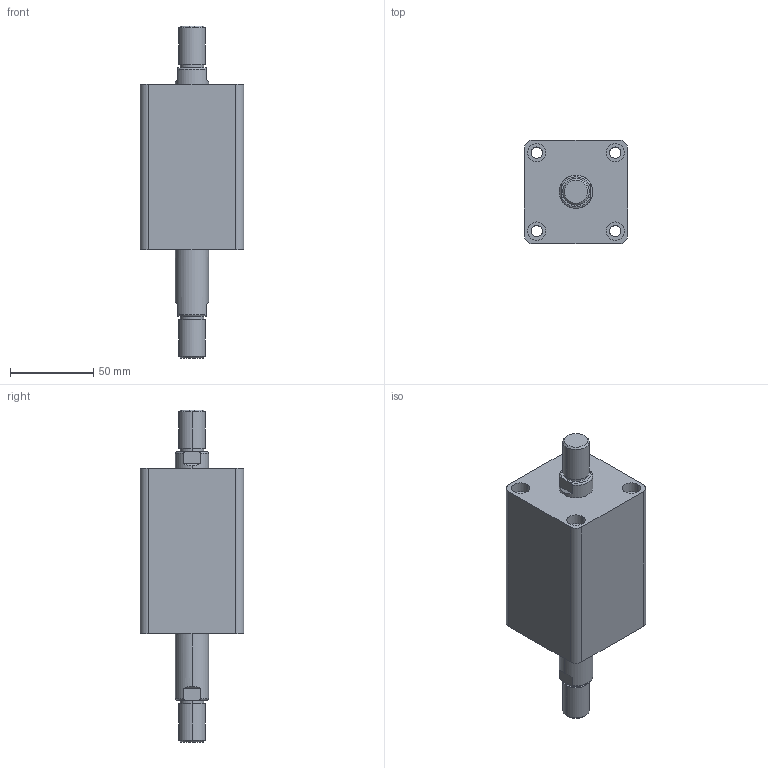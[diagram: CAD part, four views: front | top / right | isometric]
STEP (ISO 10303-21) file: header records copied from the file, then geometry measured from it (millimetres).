
FILE_DESCRIPTION (( 'STEP AP203' ), '1' );
FILE_NAME ('HTB-SW32-30W.STEP', '2019-10-07T08:52:13', ( '微软用户' ), ( '微软中国' ), 'SwSTEP 2.0', 'SolidWorks 2012', '' );
FILE_SCHEMA (( 'CONFIG_CONTROL_DESIGN' ));
Length unit declared in the file: millimetre
Products named in the file (3): HTB-SW32-30W; HTB-SW32-30W活塞杆; HTB-SW32-30掛极
Assembly tree (2 placements, depth 2):
  HTB-SW32-30W
    HTB-SW32-30掛极
    HTB-SW32-30W活塞杆
Bounding box: 62 x 62 x 199 mm (x, y, z)
Volume: 369274.3 mm3; surface area: 63416.3 mm2
Topology: 2 solids, 2 shells, 108 faces, 240 edges, 156 vertices
Faces by surface type: cylinder 52, plane 36, torus 12, cone 8
Entity records: 3449 total; most frequent: CARTESIAN_POINT 629, DIRECTION 586, ORIENTED_EDGE 480, AXIS2_PLACEMENT_3D 249, EDGE_CURVE 240, VERTEX_POINT 156, EDGE_LOOP 138, CIRCLE 136
